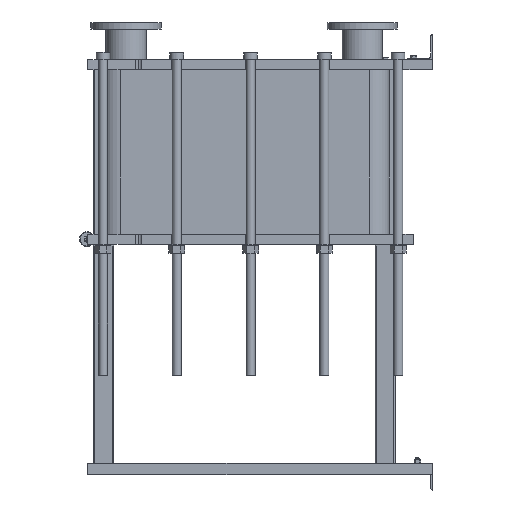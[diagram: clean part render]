
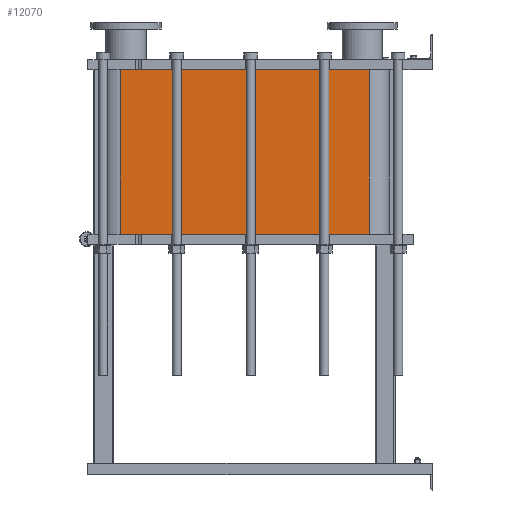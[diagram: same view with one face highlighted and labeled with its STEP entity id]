
A CAD part, left-side view. The second image highlights one B-rep face of the part: STEP entity #12070.
In plain terms, the highlighted planar face has unit normal (-1, 0, 0).
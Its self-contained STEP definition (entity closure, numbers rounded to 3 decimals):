
#1064=LINE('',#21140,#2164);
#1065=LINE('',#21144,#2165);
#1066=LINE('',#21146,#2166);
#1067=LINE('',#21147,#2167);
#2164=VECTOR('',#15790,10.);
#2165=VECTOR('',#15795,10.);
#2166=VECTOR('',#15796,10.);
#2167=VECTOR('',#15797,10.);
#3304=FACE_OUTER_BOUND('',#4091,.T.);
#4091=EDGE_LOOP('',(#9793,#9794,#9795,#9796));
#5677=VERTEX_POINT('',#21137);
#5678=VERTEX_POINT('',#21139);
#5679=VERTEX_POINT('',#21143);
#5680=VERTEX_POINT('',#21145);
#7118=EDGE_CURVE('',#5678,#5677,#1064,.T.);
#7120=EDGE_CURVE('',#5677,#5679,#1065,.T.);
#7121=EDGE_CURVE('',#5680,#5679,#1066,.T.);
#7122=EDGE_CURVE('',#5680,#5678,#1067,.T.);
#9793=ORIENTED_EDGE('',*,*,#7120,.T.);
#9794=ORIENTED_EDGE('',*,*,#7121,.F.);
#9795=ORIENTED_EDGE('',*,*,#7122,.T.);
#9796=ORIENTED_EDGE('',*,*,#7118,.T.);
#11441=PLANE('',#13191);
#12070=ADVANCED_FACE('',(#3304),#11441,.T.);
#13191=AXIS2_PLACEMENT_3D('',#21142,#15793,#15794);
#15790=DIRECTION('',(0.,0.,-1.));
#15793=DIRECTION('center_axis',(-1.,0.,0.));
#15794=DIRECTION('ref_axis',(0.,1.,0.));
#15795=DIRECTION('',(0.,-1.,0.));
#15796=DIRECTION('',(0.,0.,-1.));
#15797=DIRECTION('',(0.,1.,0.));
#21137=CARTESIAN_POINT('',(-248.152,1243.818,-655.5));
#21139=CARTESIAN_POINT('',(-248.152,1243.818,0.));
#21140=CARTESIAN_POINT('',(-248.152,1243.818,0.));
#21142=CARTESIAN_POINT('Origin',(-248.152,251.818,0.));
#21143=CARTESIAN_POINT('',(-248.152,251.818,-655.5));
#21144=CARTESIAN_POINT('',(-248.152,499.818,-655.5));
#21145=CARTESIAN_POINT('',(-248.152,251.818,0.));
#21146=CARTESIAN_POINT('',(-248.152,251.818,0.));
#21147=CARTESIAN_POINT('',(-248.152,251.818,0.));
